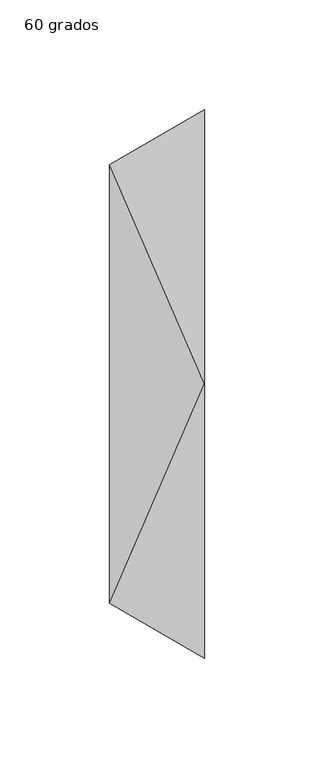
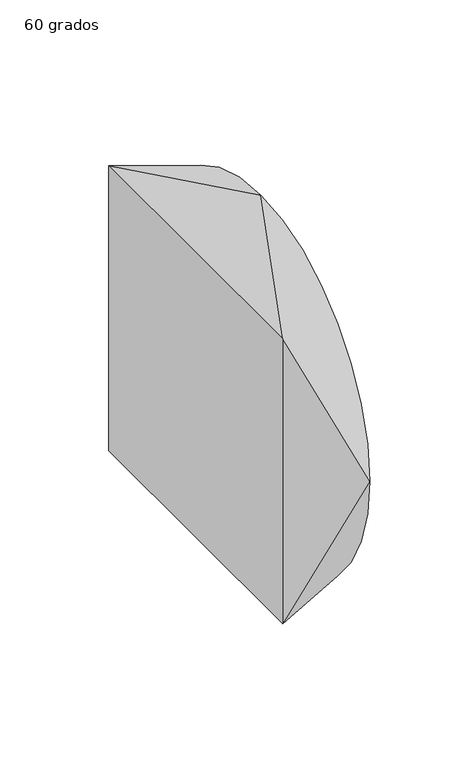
"""IFC4 building model written with IfcOpenShell, lengths in millimetres: duct fitting geometry, M_Transición de rectangular a redondo - Ángulo : 60 grados."""

from ifc_helpers import new_model, si_unit, frame, origin, place, context, project, spatial, circle_curve, source, transform, mapped, element, save
from ifc_brep_helpers import plane_surface, spline_surface, advanced_brep


def duct_fitting_60_grados_afd7d18d(model_context):
    return source(origin(), model_context, "Body", "AdvancedBrep", [
        advanced_brep(
        [(43.3012702, 0.0, 125.0), (43.3012702, -125.0, 0.0), (43.3012702, 0.0, -125.0), (43.3012702, 125.0, 0.0), (0.0, -100.0, 100.0), (0.0, 100.0, 100.0), (0.0, 100.0, -100.0), (0.0, -100.0, -100.0)],
        [
            (0, 1, circle_curve(frame((43.3012702, 0.0, 0.0), z_axis=(1.0, 0.0, 0.0), x_axis=(0.0, 1.0, 0.0)), 125.0)),
            (1, 2, circle_curve(frame((43.3012702, 0.0, 0.0), z_axis=(1.0, 0.0, 0.0), x_axis=(0.0, 1.0, 0.0)), 125.0)),
            (2, 3, circle_curve(frame((43.3012702, 0.0, 0.0), z_axis=(1.0, 0.0, 0.0), x_axis=(0.0, 1.0, 0.0)), 125.0)),
            (3, 0, circle_curve(frame((43.3012702, 0.0, 0.0), z_axis=(1.0, 0.0, 0.0), x_axis=(0.0, 1.0, 0.0)), 125.0)),
            (4, 5),
            (5, 6),
            (6, 7),
            (7, 4),
            (0, 4),
            (4, 1),
            (7, 1),
            (7, 2),
            (6, 2),
            (6, 3),
            (5, 3),
            (5, 0),
        ],
        [
            plane_surface(frame((43.3012702, 0.0, 0.0), z_axis=(1.0, 0.0, 0.0), x_axis=(0.0, 0.0, -1.0))),
            plane_surface(frame((0.0, 0.0, 0.0), z_axis=(-1.0, 0.0, 0.0), x_axis=(0.0, 0.0, -1.0))),
            spline_surface(2, 1, [[(0.0, -100.0, 100.0), (43.3012702, 0.0, 125.0)], [(0.0, -100.0, 100.0), (43.3012702, -125.0, 125.0)], [(0.0, -100.0, 100.0), (43.3012702, -125.0, 0.0)]], [3, 3], [2, 2], [0.0, 1.0], [0.0, 1.0], weights=[[1.0, 1.0], [0.7071067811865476, 0.7071067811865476], [1.0, 1.0]]),
            plane_surface(frame((0.0, -100.0, 0.0), z_axis=(-0.49999999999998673, -0.8660254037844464, 0.0), x_axis=(0.0, 0.0, -1.0))),
            spline_surface(2, 1, [[(0.0, -100.0, -100.0), (43.3012702, -125.0, 0.0)], [(0.0, -100.0, -100.0), (43.3012702, -125.0, -125.0)], [(0.0, -100.0, -100.0), (43.3012702, 0.0, -125.0)]], [3, 3], [2, 2], [0.0, 1.0], [0.0, 1.0], weights=[[1.0, 1.0], [0.7071067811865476, 0.7071067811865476], [1.0, 1.0]]),
            plane_surface(frame((0.0, 0.0, -100.0), z_axis=(-0.49999999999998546, 0.0, -0.8660254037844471), x_axis=(0.0, 1.0, 0.0))),
            spline_surface(2, 1, [[(0.0, 100.0, -100.0), (43.3012702, 0.0, -125.0)], [(0.0, 100.0, -100.0), (43.3012702, 125.0, -125.0)], [(0.0, 100.0, -100.0), (43.3012702, 125.0, 0.0)]], [3, 3], [2, 2], [0.0, 1.0], [0.0, 1.0], weights=[[1.0, 1.0], [0.7071067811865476, 0.7071067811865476], [1.0, 1.0]]),
            plane_surface(frame((0.0, 100.0, 0.0), z_axis=(-0.5000000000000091, 0.8660254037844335, 0.0), x_axis=(0.0, 0.0, 1.0))),
            spline_surface(2, 1, [[(0.0, 100.0, 100.0), (43.3012702, 125.0, 0.0)], [(0.0, 100.0, 100.0), (43.3012702, 125.0, 125.0)], [(0.0, 100.0, 100.0), (43.3012702, 0.0, 125.0)]], [3, 3], [2, 2], [0.0, 1.0], [0.0, 1.0], weights=[[1.0, 1.0], [0.7071067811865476, 0.7071067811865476], [1.0, 1.0]]),
            plane_surface(frame((0.0, 0.0, 100.0), z_axis=(-0.4999999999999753, 0.0, 0.866025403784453), x_axis=(0.0, -1.0, 0.0))),
        ],
        [
            (0, [[1, 2, 3, 4]]),
            (1, [[5, 6, 7, 8]]),
            (2, [[-1, 9, 10]]),
            (3, [[-8, 11, -10]]),
            (4, [[-2, -11, 12]]),
            (5, [[-7, 13, -12]]),
            (6, [[-3, -13, 14]]),
            (7, [[-6, 15, -14]]),
            (8, [[-4, -15, 16]]),
            (9, [[-5, -9, -16]]),
        ],
    ),
    ])


if __name__ == "__main__":
    model = new_model("IFC4")
    model_context = context("Model", 3, world=origin())
    ifc_project = project(units=[si_unit("LENGTHUNIT", "METRE", prefix="MILLI")], contexts=[model_context])
    site = spatial("IfcSite", under=ifc_project)
    building = spatial("IfcBuilding", under=site)
    placement = place(None, origin())
    duct_fitting_60_grados_shape = duct_fitting_60_grados_afd7d18d(model_context)
    element("IfcDuctFitting", 1, ObjectType="M_Transición de rectangular a redondo - Ángulo : 60 grados", at=placement, inside=building, context=model_context, shape_type="MappedRepresentation", body=[
        mapped(duct_fitting_60_grados_shape, transform((0.0, 0.0, 0.0), x_axis=(1.0, 0.0, 0.0), y_axis=(0.0, 1.0, 0.0), z_axis=(0.0, 0.0, 1.0))),
    ])
    save(model, "model.ifc")
